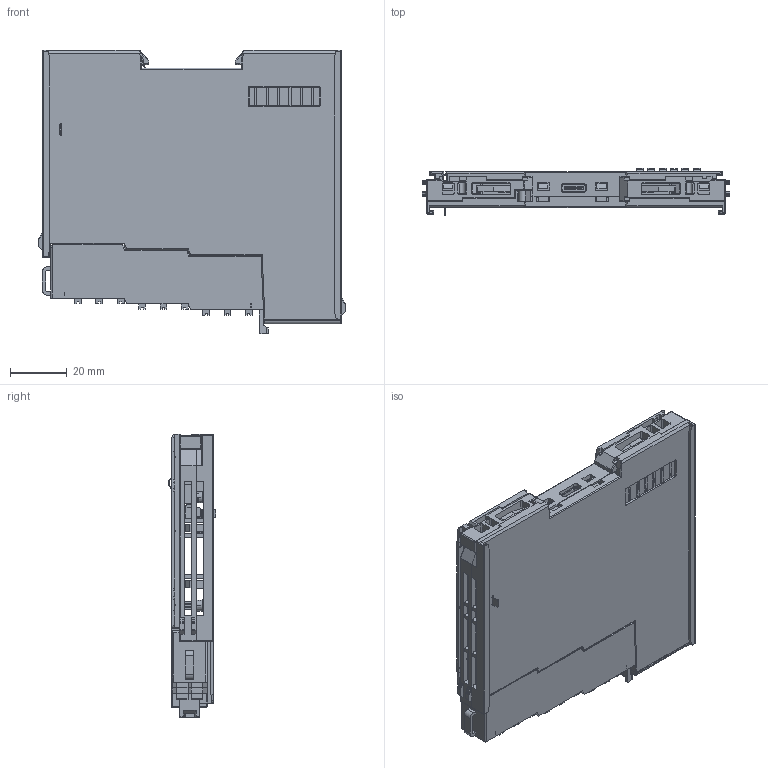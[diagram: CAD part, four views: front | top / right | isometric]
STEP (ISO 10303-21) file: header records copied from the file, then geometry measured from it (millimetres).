
FILE_DESCRIPTION((''),'2;1');
FILE_NAME('00-KZMK-12_ASM','2023-09-04T11:13:09',('Administrator'),(''),'CREO PARAMETRIC BY PTC INC, 2019080','CREO PARAMETRIC BY PTC INC, 2019080','');
FILE_SCHEMA(('CONFIG_CONTROL_DESIGN'));
Products named in the file (17): 80740373; 80740376; 80880795; 80880796; PCB-A15-250KZB1-JX1-250KZB2-SZL; 77559739; 77559742; CXLJQ-Y-0722; CXLJQ-Z-1216; DDD1; PK2205-USB; PCB-A15-250KZB2-SZL_ASM; PCB-A15-125MNL; PCB-A15-125MNL_ASM; PCB-A15-125KZ_ASM; 2X9-0131; 00-KZMK-12_ASM
Assembly tree (33 placements, depth 5):
  00-KZMK-12_ASM
    80740373
    80740376
    80880795
    80880796
    PCB-A15-125KZ_ASM
      PCB-A15-125MNL_ASM
        PCB-A15-250KZB2-SZL_ASM
          PCB-A15-250KZB1-JX1-250KZB2-SZL
          77559739
          77559742
          CXLJQ-Y-0722
          CXLJQ-Z-1216
          DDD1  x18
          PK2205-USB
        PCB-A15-125MNL
    2X9-0131
Bounding box: 108 x 16.7 x 99.5 mm (x, y, z)
Volume: 57191.6 mm3; surface area: 77847.9 mm2
Topology: 55 solids, 58 shells, 6938 faces, 19526 edges, 12712 vertices
Faces by surface type: plane 5307, cylinder 1143, bspline 254, cone 120, torus 78, sphere 36
Entity records: 190646 total; most frequent: CARTESIAN_POINT 46685, ORIENTED_EDGE 31342, DIRECTION 27870, EDGE_CURVE 15675, VECTOR 12314, LINE 12314, VERTEX_POINT 10196, AXIS2_PLACEMENT_3D 7778
